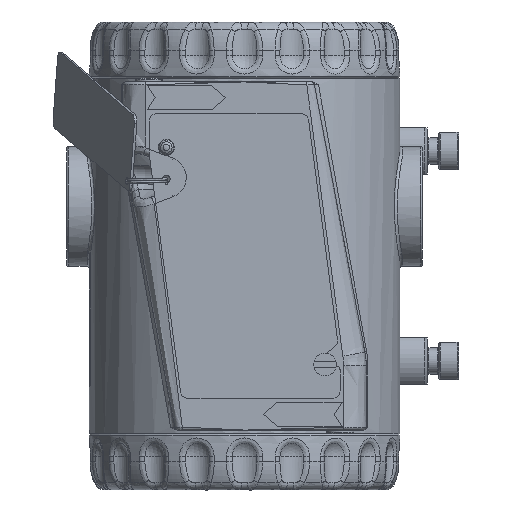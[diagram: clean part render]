
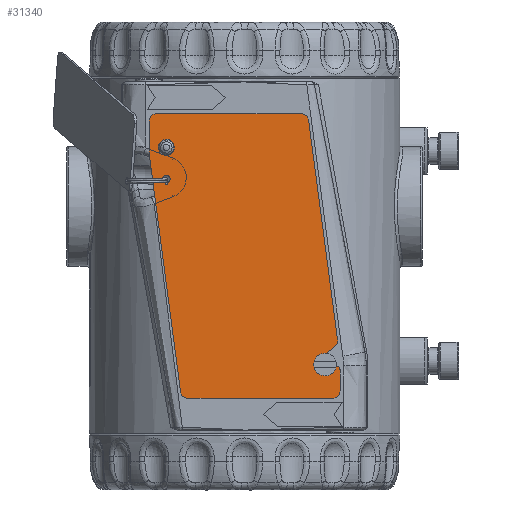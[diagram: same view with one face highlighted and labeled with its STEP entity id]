
A CAD part, left-side view. The second image highlights one B-rep face of the part: STEP entity #31340.
In plain terms, the highlighted planar face has unit normal (-1, 0, 0) as drawn and (0, 0, 1) by its records, which use the part's own axes.
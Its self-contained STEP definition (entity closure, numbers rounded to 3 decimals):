
#1022=PLANE('',#35186);
#1504=FACE_BOUND('',#8507,.T.);
#1505=FACE_BOUND('',#8508,.T.);
#2783=LINE('',#69998,#4212);
#2787=LINE('',#70010,#4216);
#2791=LINE('',#70022,#4220);
#2795=LINE('',#70034,#4224);
#2799=LINE('',#70046,#4228);
#2802=LINE('',#70052,#4231);
#2806=LINE('',#70064,#4235);
#2810=LINE('',#70075,#4239);
#4212=VECTOR('',#43029,10.);
#4216=VECTOR('',#43041,10.);
#4220=VECTOR('',#43053,10.);
#4224=VECTOR('',#43065,10.);
#4228=VECTOR('',#43077,10.);
#4231=VECTOR('',#43082,10.);
#4235=VECTOR('',#43094,10.);
#4239=VECTOR('',#43106,10.);
#6502=FACE_OUTER_BOUND('',#8506,.T.);
#8506=EDGE_LOOP('',(#27366,#27367,#27368,#27369,#27370,#27371,#27372,#27373,
#27374,#27375,#27376,#27377,#27378,#27379,#27380));
#8507=EDGE_LOOP('',(#27381));
#8508=EDGE_LOOP('',(#27382));
#10584=CIRCLE('',#35152,1.35);
#10586=CIRCLE('',#35155,1.);
#10587=CIRCLE('',#35157,2.);
#10589=CIRCLE('',#35161,2.);
#10591=CIRCLE('',#35165,1.);
#10593=CIRCLE('',#35169,2.);
#10595=CIRCLE('',#35173,2.);
#10597=CIRCLE('',#35178,2.);
#10599=CIRCLE('',#35182,2.);
#14402=VERTEX_POINT('',#69978);
#14404=VERTEX_POINT('',#69984);
#14405=VERTEX_POINT('',#69988);
#14406=VERTEX_POINT('',#69989);
#14409=VERTEX_POINT('',#69997);
#14411=VERTEX_POINT('',#70003);
#14413=VERTEX_POINT('',#70009);
#14415=VERTEX_POINT('',#70015);
#14417=VERTEX_POINT('',#70021);
#14419=VERTEX_POINT('',#70027);
#14421=VERTEX_POINT('',#70033);
#14423=VERTEX_POINT('',#70039);
#14425=VERTEX_POINT('',#70045);
#14427=VERTEX_POINT('',#70051);
#14429=VERTEX_POINT('',#70057);
#14431=VERTEX_POINT('',#70063);
#14433=VERTEX_POINT('',#70069);
#18795=EDGE_CURVE('',#14402,#14402,#10584,.T.);
#18798=EDGE_CURVE('',#14404,#14404,#10586,.T.);
#18799=EDGE_CURVE('',#14405,#14406,#10587,.T.);
#18803=EDGE_CURVE('',#14406,#14409,#2783,.T.);
#18806=EDGE_CURVE('',#14409,#14411,#10589,.T.);
#18809=EDGE_CURVE('',#14411,#14413,#2787,.T.);
#18812=EDGE_CURVE('',#14413,#14415,#10591,.T.);
#18815=EDGE_CURVE('',#14415,#14417,#2791,.T.);
#18818=EDGE_CURVE('',#14417,#14419,#10593,.T.);
#18821=EDGE_CURVE('',#14419,#14421,#2795,.T.);
#18824=EDGE_CURVE('',#14421,#14423,#10595,.T.);
#18827=EDGE_CURVE('',#14423,#14425,#2799,.T.);
#18830=EDGE_CURVE('',#14425,#14427,#2802,.T.);
#18833=EDGE_CURVE('',#14427,#14429,#10597,.T.);
#18836=EDGE_CURVE('',#14429,#14431,#2806,.T.);
#18839=EDGE_CURVE('',#14431,#14433,#10599,.T.);
#18842=EDGE_CURVE('',#14433,#14405,#2810,.T.);
#27366=ORIENTED_EDGE('',*,*,#18799,.F.);
#27367=ORIENTED_EDGE('',*,*,#18842,.F.);
#27368=ORIENTED_EDGE('',*,*,#18839,.F.);
#27369=ORIENTED_EDGE('',*,*,#18836,.F.);
#27370=ORIENTED_EDGE('',*,*,#18833,.F.);
#27371=ORIENTED_EDGE('',*,*,#18830,.F.);
#27372=ORIENTED_EDGE('',*,*,#18827,.F.);
#27373=ORIENTED_EDGE('',*,*,#18824,.F.);
#27374=ORIENTED_EDGE('',*,*,#18821,.F.);
#27375=ORIENTED_EDGE('',*,*,#18818,.F.);
#27376=ORIENTED_EDGE('',*,*,#18815,.F.);
#27377=ORIENTED_EDGE('',*,*,#18812,.F.);
#27378=ORIENTED_EDGE('',*,*,#18809,.F.);
#27379=ORIENTED_EDGE('',*,*,#18806,.F.);
#27380=ORIENTED_EDGE('',*,*,#18803,.F.);
#27381=ORIENTED_EDGE('',*,*,#18795,.T.);
#27382=ORIENTED_EDGE('',*,*,#18798,.T.);
#31340=ADVANCED_FACE('',(#6502,#1504,#1505),#1022,.T.);
#35152=AXIS2_PLACEMENT_3D('',#69980,#43010,#43011);
#35155=AXIS2_PLACEMENT_3D('',#69986,#43017,#43018);
#35157=AXIS2_PLACEMENT_3D('',#69990,#43021,#43022);
#35161=AXIS2_PLACEMENT_3D('',#70004,#43034,#43035);
#35165=AXIS2_PLACEMENT_3D('',#70016,#43046,#43047);
#35169=AXIS2_PLACEMENT_3D('',#70028,#43058,#43059);
#35173=AXIS2_PLACEMENT_3D('',#70040,#43070,#43071);
#35178=AXIS2_PLACEMENT_3D('',#70058,#43087,#43088);
#35182=AXIS2_PLACEMENT_3D('',#70070,#43099,#43100);
#35186=AXIS2_PLACEMENT_3D('',#70078,#43110,#43111);
#43010=DIRECTION('center_axis',(0.,0.,-1.));
#43011=DIRECTION('ref_axis',(-1.,0.,0.));
#43017=DIRECTION('center_axis',(0.,0.,-1.));
#43018=DIRECTION('ref_axis',(-1.,0.,0.));
#43021=DIRECTION('center_axis',(0.,0.,-1.));
#43022=DIRECTION('ref_axis',(0.766,0.643,0.));
#43029=DIRECTION('',(0.643,-0.766,0.));
#43034=DIRECTION('center_axis',(0.,0.,1.));
#43035=DIRECTION('ref_axis',(0.766,0.643,0.));
#43041=DIRECTION('',(-0.643,0.766,0.));
#43046=DIRECTION('center_axis',(0.,0.,-1.));
#43047=DIRECTION('ref_axis',(0.,1.,0.));
#43053=DIRECTION('',(1.,0.,0.));
#43058=DIRECTION('center_axis',(0.,0.,-1.));
#43059=DIRECTION('ref_axis',(1.,0.,0.));
#43065=DIRECTION('',(0.,-1.,0.));
#43070=DIRECTION('center_axis',(0.,0.,-1.));
#43071=DIRECTION('ref_axis',(0.131,-0.991,0.));
#43077=DIRECTION('',(-0.991,-0.131,0.));
#43082=DIRECTION('',(-1.,0.,0.));
#43087=DIRECTION('center_axis',(0.,0.,-1.));
#43088=DIRECTION('ref_axis',(-1.,0.,0.));
#43094=DIRECTION('',(0.,1.,0.));
#43099=DIRECTION('center_axis',(0.,0.,-1.));
#43100=DIRECTION('ref_axis',(-0.131,0.991,0.));
#43106=DIRECTION('',(0.991,0.131,0.));
#43110=DIRECTION('center_axis',(0.,0.,1.));
#43111=DIRECTION('ref_axis',(1.,0.,0.));
#69978=CARTESIAN_POINT('',(10.35,4.599,0.7));
#69980=CARTESIAN_POINT('Origin',(9.,4.599,0.7));
#69984=CARTESIAN_POINT('',(18.4,4.599,0.7));
#69986=CARTESIAN_POINT('Origin',(17.4,4.599,0.7));
#69988=CARTESIAN_POINT('',(60.389,50.327,0.7));
#69989=CARTESIAN_POINT('',(62.182,49.63,0.7));
#69990=CARTESIAN_POINT('Origin',(60.65,48.344,0.7));
#69997=CARTESIAN_POINT('',(65.468,45.714,0.7));
#69998=CARTESIAN_POINT('',(65.468,45.714,0.7));
#70003=CARTESIAN_POINT('',(68.532,48.286,0.7));
#70004=CARTESIAN_POINT('Origin',(67.,47.,0.7));
#70009=CARTESIAN_POINT('',(67.633,49.357,0.7));
#70010=CARTESIAN_POINT('',(67.633,49.357,0.7));
#70015=CARTESIAN_POINT('',(68.399,51.,0.7));
#70016=CARTESIAN_POINT('Origin',(68.399,50.,0.7));
#70021=CARTESIAN_POINT('',(74.,51.,0.7));
#70022=CARTESIAN_POINT('',(74.,51.,0.7));
#70027=CARTESIAN_POINT('',(76.,49.,0.7));
#70028=CARTESIAN_POINT('Origin',(74.,49.,0.7));
#70033=CARTESIAN_POINT('',(76.,10.377,0.7));
#70034=CARTESIAN_POINT('',(76.,10.377,0.7));
#70039=CARTESIAN_POINT('',(74.261,8.394,0.7));
#70040=CARTESIAN_POINT('Origin',(74.,10.377,0.7));
#70045=CARTESIAN_POINT('',(10.5,0.,0.7));
#70046=CARTESIAN_POINT('',(10.5,0.,0.7));
#70051=CARTESIAN_POINT('',(2.,0.,0.7));
#70052=CARTESIAN_POINT('',(2.,0.,0.7));
#70057=CARTESIAN_POINT('',(0.,2.,0.7));
#70058=CARTESIAN_POINT('Origin',(2.,2.,0.7));
#70063=CARTESIAN_POINT('',(0.,40.623,0.7));
#70064=CARTESIAN_POINT('',(0.,40.623,0.7));
#70069=CARTESIAN_POINT('',(1.739,42.606,0.7));
#70070=CARTESIAN_POINT('Origin',(2.,40.623,0.7));
#70075=CARTESIAN_POINT('',(60.389,50.327,0.7));
#70078=CARTESIAN_POINT('Origin',(39.077,26.228,0.7));
